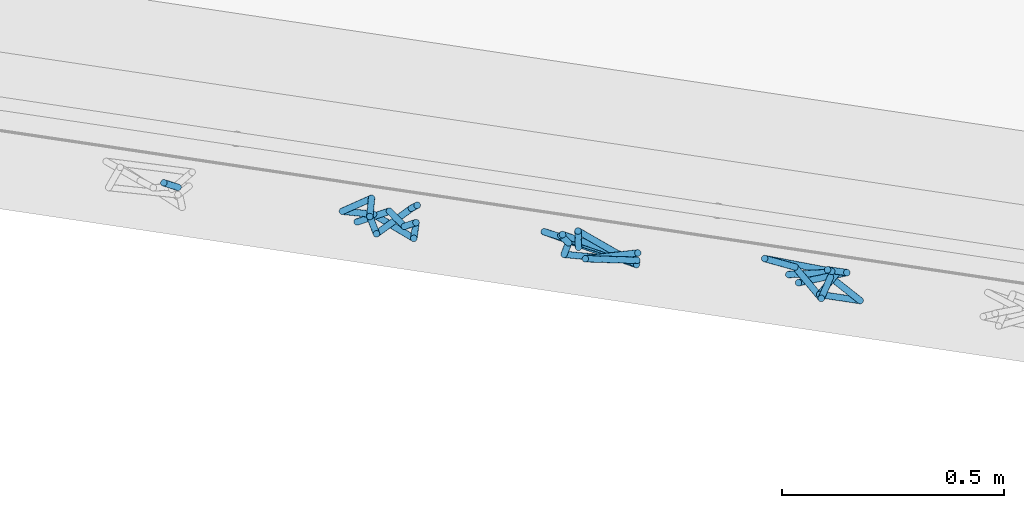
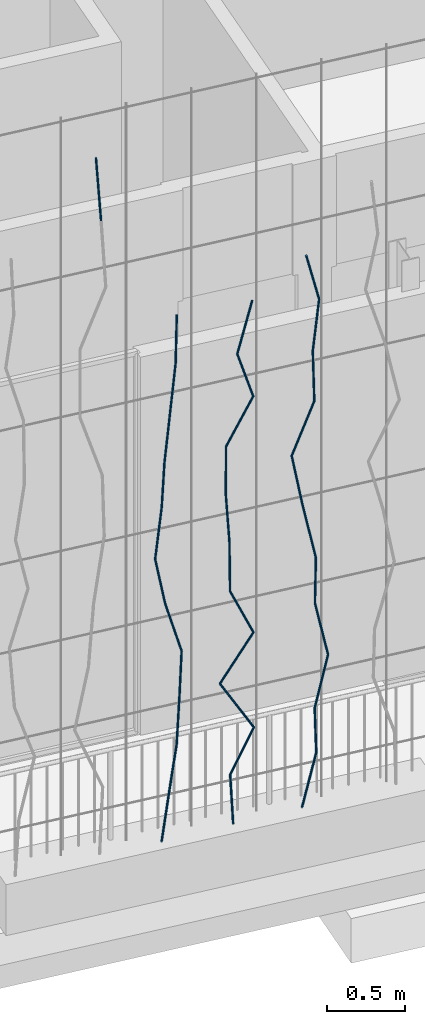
# One storey, part 117 of 142: 34 members, 1 element without a shape of its own.
"""IFC4 building model written with IfcOpenShell, lengths in metres."""

import ifcopenshell
import ifcopenshell.guid

model = None  # the IFC model being written
_history = None  # IfcOwnerHistory: only IFC2X3 demands one
_inside = {}  # id of a spatial element -> (the spatial element, [elements in it])
_under = {}  # id of a project, library or spatial element -> (it, [spatial elements below it])
_declared = {}  # id of a project -> (the project, [libraries it declares])
_typed = {}  # id of a type object -> (the type object, [elements of that type])
_made_of = {}  # id of a material, layer set ... -> (it, [elements and type objects made of it])


def new_model(schema):
    """Start an empty IFC model of exactly this schema.

    Asked for "IFC4X3", IfcOpenShell would pick the latest addendum, in which some entities
    have other attributes; the version numbers below select the first issue.
    IFC2X3 requires an IfcOwnerHistory on every rooted entity: one is made here for all.
    """
    global model, _history
    if schema == "IFC4X3":
        model = ifcopenshell.file(schema_version=(4, 3, 0, 0))
    else:
        model = ifcopenshell.file(schema=schema)
    _inside.clear()
    _under.clear()
    _declared.clear()
    _typed.clear()
    _made_of.clear()
    _history = None
    if model.schema == "IFC2X3":
        org = make("IfcOrganization", Name="unknown")
        user = make(
            "IfcPersonAndOrganization",
            ThePerson=make("IfcPerson", FamilyName="unknown"),
            TheOrganization=org,
        )
        app = make(
            "IfcApplication",
            ApplicationDeveloper=org,
            Version="unknown",
            ApplicationFullName="unknown",
            ApplicationIdentifier="unknown",
        )
        _history = make(
            "IfcOwnerHistory",
            OwningUser=user,
            OwningApplication=app,
            ChangeAction="ADDED",
            CreationDate=0,
        )
    return model


def make(cls, **values):
    """One entity of the class cls with the attributes given. An attribute that is None is left unset."""
    return model.create_entity(
        cls, **{name: value for name, value in values.items() if value is not None}
    )


def rooted(cls, **values):
    """An entity with a GlobalId (a new one), such as an element, a storey or a relation."""
    return make(cls, GlobalId=ifcopenshell.guid.new(), OwnerHistory=_history, **values)


def si_unit(unit_type, name, prefix=None):
    """IfcSIUnit, for example si_unit("LENGTHUNIT", "METRE", prefix="MILLI")."""
    return make("IfcSIUnit", UnitType=unit_type, Prefix=prefix, Name=name)


def assignment(units):
    """IfcUnitAssignment: the units of a project."""
    return None if units is None else make("IfcUnitAssignment", Units=units)


def point(xyz):
    """IfcCartesianPoint."""
    return None if xyz is None else make("IfcCartesianPoint", Coordinates=xyz)


def direction(xyz):
    """IfcDirection."""
    return None if xyz is None else make("IfcDirection", DirectionRatios=xyz)


def frame(location, z_axis=None, x_axis=None):
    """IfcAxis2Placement3D, a coordinate frame: its origin and axes. An axis left out is left unset."""
    return make(
        "IfcAxis2Placement3D",
        Location=point(location),
        Axis=direction(z_axis),
        RefDirection=direction(x_axis),
    )


def origin_with_axes():
    """The frame at (0, 0, 0) with the z axis (0, 0, 1) and the x axis (1, 0, 0) written out."""
    return frame((0.0, 0.0, 0.0), z_axis=(0.0, 0.0, 1.0), x_axis=(1.0, 0.0, 0.0))


def place(relative_to, where):
    """IfcLocalPlacement: puts the frame where relative to a parent placement (None: the world)."""
    return make(
        "IfcLocalPlacement", PlacementRelTo=relative_to, RelativePlacement=where
    )


def context(
    kind, dimensions, precision=None, world=None, true_north=None, identifier=None
):
    """IfcGeometricRepresentationContext, for example the 3D "Model" context."""
    return make(
        "IfcGeometricRepresentationContext",
        ContextIdentifier=identifier,
        ContextType=kind,
        CoordinateSpaceDimension=dimensions,
        Precision=precision,
        WorldCoordinateSystem=world,
        TrueNorth=true_north,
    )


def subcontext(parent, identifier, kind, view, scale=None):
    """IfcGeometricRepresentationSubContext, for example "Body" below "Model"."""
    return make(
        "IfcGeometricRepresentationSubContext",
        ContextIdentifier=identifier,
        ContextType=kind,
        ParentContext=parent,
        TargetScale=scale,
        TargetView=view,
    )


def project(units=None, contexts=None):
    """IfcProject with its units and contexts."""
    return rooted(
        "IfcProject",
        Name="project",
        RepresentationContexts=contexts,
        UnitsInContext=assignment(units),
    )


def spatial(cls, under=None, at=None, **own):
    """A site, building, storey or space (cls), placed at a placement, below another one or the project."""
    s = rooted(cls, ObjectPlacement=at, **own)
    if under is not None:
        _under.setdefault(under.id(), (under, []))[1].append(s)
    return s


def profile(cls, at=None, kind="AREA", **sizes):
    """A parametric profile (cls). Its sizes go by their IFC names, for example OverallWidth=200.0."""
    return make(cls, ProfileType=kind, Position=at, **sizes)


def circle(**sizes):
    """IfcCircleProfileDef."""
    return profile("IfcCircleProfileDef", **sizes)


def extrude(swept, where, along, depth):
    """IfcExtrudedAreaSolid: the profile swept, set in the frame where, extruded along a direction by depth."""
    return make(
        "IfcExtrudedAreaSolid",
        SweptArea=swept,
        Position=where,
        ExtrudedDirection=direction(along),
        Depth=depth,
    )


def shape(context_of_items, identifier, shape_type, items):
    """IfcShapeRepresentation: the items that make up one representation, for example the "Body"."""
    return make(
        "IfcShapeRepresentation",
        ContextOfItems=context_of_items,
        RepresentationIdentifier=identifier,
        RepresentationType=shape_type,
        Items=items,
    )


def material(Name=None, Category=None):
    """IfcMaterial."""
    return make("IfcMaterial", Name=Name, Category=Category)


def material_profile(
    of_material, cross_section, Name=None, Category=None, Priority=None
):
    """IfcMaterialProfile: a cross section and its material."""
    return make(
        "IfcMaterialProfile",
        Name=Name,
        Material=of_material,
        Profile=cross_section,
        Priority=Priority,
        Category=Category,
    )


def profile_set(profiles, Name=None, composite=None):
    """IfcMaterialProfileSet."""
    return make(
        "IfcMaterialProfileSet",
        Name=Name,
        MaterialProfiles=profiles,
        CompositeProfile=composite,
    )


def profile_usage(for_profile_set, cardinal=None, extent=None):
    """IfcMaterialProfileSetUsage: how a profile set lies along its element."""
    return make(
        "IfcMaterialProfileSetUsage",
        ForProfileSet=for_profile_set,
        CardinalPoint=cardinal,
        ReferenceExtent=extent,
    )


def made_of(thing, what):
    """Note that an element or type object is made of a material, layer set ...; save() writes the relation."""
    if what is not None:
        _made_of.setdefault(what.id(), (what, []))[1].append(thing)
    return thing


def type_object(cls, material=None, **own):
    """A type object (cls), such as IfcWallType, which elements share."""
    return made_of(rooted(cls, **own), material)


def element(
    cls,
    number,
    at=None,
    inside=None,
    cuts=None,
    type_object=None,
    material=None,
    context=None,
    identifier="Body",
    shape_type=None,
    held_by="IfcProductDefinitionShape",
    body=None,
    shapes=None,
    **own,
):
    """One element of the class cls, such as IfcWall. Its Tag is "e" and its number.

    at: its placement. inside: the storey or other place that contains it. cuts: it is an
    opening in that element (IfcRelVoidsElement). A single representation is given by context,
    identifier, shape_type and body (its items); several are given by shapes. held_by: the class
    of the entity that holds the representations. save() writes the other relations.
    """
    e = rooted(cls, Tag="e%d" % number, ObjectPlacement=at, **own)
    if body is not None:
        shapes = [shape(context, identifier, shape_type, body)]
    if shapes is not None:
        e.Representation = make(held_by, Representations=shapes)
    if inside is not None:
        _inside.setdefault(inside.id(), (inside, []))[1].append(e)
    if cuts is not None:
        rooted(
            "IfcRelVoidsElement", RelatingBuildingElement=cuts, RelatedOpeningElement=e
        )
    if type_object is not None:
        _typed.setdefault(type_object.id(), (type_object, []))[1].append(e)
    return made_of(e, material)


def aggregate(whole, parts):
    """IfcRelAggregates: a whole, such as a stair, and the parts it consists of."""
    return rooted("IfcRelAggregates", RelatingObject=whole, RelatedObjects=parts)


def save(model, path):
    """Write the relations noted so far, then the file.

    IfcRelAggregates (storeys below a building ...), IfcRelContainedInSpatialStructure (elements
    in a storey), IfcRelDefinesByType, IfcRelAssociatesMaterial and IfcRelDeclares: one each for
    every whole, place, type object, material and project.
    """
    for whole, parts in _under.values():
        aggregate(whole, parts)
    for where, things in _inside.values():
        rooted(
            "IfcRelContainedInSpatialStructure",
            RelatedElements=things,
            RelatingStructure=where,
        )
    for kind, things in _typed.values():
        rooted("IfcRelDefinesByType", RelatedObjects=things, RelatingType=kind)
    for what, things in _made_of.values():
        rooted("IfcRelAssociatesMaterial", RelatedObjects=things, RelatingMaterial=what)
    for by, libraries in _declared.values():
        rooted("IfcRelDeclares", RelatingContext=by, RelatedDefinitions=libraries)
    model.write(path)


model = new_model("IFC4")

# Units and contexts
model_context = context("Model", 3, precision=1e-05, world=origin_with_axes(), true_north=direction((0.0, 1.0)))
body_context = subcontext(model_context, "Body", "Model", "MODEL_VIEW")
ifc_project = project(units=[si_unit("LENGTHUNIT", "METRE"), si_unit("AREAUNIT", "SQUARE_METRE"), si_unit("VOLUMEUNIT", "CUBIC_METRE")], contexts=[model_context])

# Site, building, storey
site_placement = place(None, origin_with_axes())
site = spatial("IfcSite", under=ifc_project, at=site_placement, Name="Lares · Rua das Mercês · artigo 4771")
building_placement = place(site_placement, frame((15.0, 9.7, 14.65), z_axis=(0.0, 0.0, 1.0), x_axis=(0.989015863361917, -0.147809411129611, 0.0)))
building = spatial("IfcBuilding", under=site, at=building_placement, Name="Casa Sobreposta")
storey_placement = place(building_placement, origin_with_axes())
storey = spatial("IfcBuildingStorey", under=building, at=storey_placement, Name="00 · Habitação e estacionamento", Elevation=14.65)

# Assembly, members
assembly_placement = place(storey_placement, origin_with_axes())
assembly = element("IfcElementAssembly", 1, at=assembly_placement, inside=storey, Name="Fachada sul e pátio · estrutura e trepadeiras", ObjectType="LIVING_SHADE_TRELLIS", PredefinedType="USERDEFINED")
ifc_material = material(Name="Ramos de trepadeiras", Category="wood")
ifc_material_profile = material_profile(ifc_material, circle(Radius=0.0075))
ifc_profile_set = profile_set([ifc_material_profile], Name="D0.015")
ifc_profile_usage_1 = profile_usage(ifc_profile_set)
member_type = type_object("IfcMemberType", Name="D0.015 / vine_wood", PredefinedType="NOTDEFINED", material=ifc_profile_set)
member_1_placement = place(assembly_placement, frame((9.199402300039, -1.67760846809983, 5.32537169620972), z_axis=(-0.0662661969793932, 0.0107995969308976, 0.997743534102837), x_axis=(0.160850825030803, 0.986978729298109, 0.0)))
member_1 = element("IfcMember", 2, at=member_1_placement, type_object=member_type, material=ifc_profile_usage_1, Name="Trepadeiras · ramo", context=body_context, shape_type="SweptSolid", body=[
    extrude(circle(Radius=0.0075), origin_with_axes(), (0.0, 0.0, 1.0), 0.49866238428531),
])
ifc_profile_usage_2 = profile_usage(ifc_profile_set)
member_2_placement = place(assembly_placement, frame((9.61025777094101, -1.6950336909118, 0.35), z_axis=(0.181835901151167, 0.0919976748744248, 0.97901590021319), x_axis=(0.451447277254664, -0.892297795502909, 0.0)))
member_2 = element("IfcMember", 3, at=member_2_placement, type_object=member_type, material=ifc_profile_usage_2, Name="Trepadeiras · ramo", context=body_context, shape_type="SweptSolid", body=[
    extrude(circle(Radius=0.0075), origin_with_axes(), (0.0, 0.0, 1.0), 0.377933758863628),
])
ifc_profile_usage_3 = profile_usage(ifc_profile_set)
member_3_placement = place(assembly_placement, frame((9.67897969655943, -1.66026466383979, 0.72000315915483), z_axis=(0.103219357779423, -0.0774565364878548, 0.991638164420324), x_axis=(-0.600208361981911, -0.799843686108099, -1.33299173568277e-17)))
member_3 = element("IfcMember", 4, at=member_3_placement, type_object=member_type, material=ifc_profile_usage_3, Name="Trepadeiras · ramo", context=body_context, shape_type="SweptSolid", body=[
    extrude(circle(Radius=0.0075), origin_with_axes(), (0.0, 0.0, 1.0), 0.37312315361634),
])
ifc_profile_usage_4 = profile_usage(ifc_profile_set)
member_4_placement = place(assembly_placement, frame((9.71749322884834, -1.68916549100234, 1.09000631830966), z_axis=(0.0661164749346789, 0.0332706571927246, 0.997257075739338), x_axis=(0.449508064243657, -0.893276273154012, 0.0)))
member_4 = element("IfcMember", 5, at=member_4_placement, type_object=member_type, material=ifc_profile_usage_4, Name="Trepadeiras · ramo", context=body_context, shape_type="SweptSolid", body=[
    extrude(circle(Radius=0.0075), origin_with_axes(), (0.0, 0.0, 1.0), 0.371020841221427),
])
ifc_profile_usage_5 = profile_usage(ifc_profile_set)
member_5_placement = place(assembly_placement, frame((9.7420238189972, -1.67682138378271, 1.46000947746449), z_axis=(0.00123806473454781, -0.0968645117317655, 0.995296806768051), x_axis=(-0.999918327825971, -0.0127803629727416, 0.0)))
member_5 = element("IfcMember", 6, at=member_5_placement, type_object=member_type, material=ifc_profile_usage_5, Name="Trepadeiras · ramo", context=body_context, shape_type="SweptSolid", body=[
    extrude(circle(Radius=0.0075), origin_with_axes(), (0.0, 0.0, 1.0), 0.371751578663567),
])
ifc_profile_usage_6 = profile_usage(ifc_profile_set)
member_6_placement = place(assembly_placement, frame((9.74248407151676, -1.71283091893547, 1.83001263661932), z_axis=(-0.254351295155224, 0.104439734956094, 0.961456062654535), x_axis=(0.379838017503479, 0.925053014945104, 0.0)))
member_6 = element("IfcMember", 7, at=member_6_placement, type_object=member_type, material=ifc_profile_usage_6, Name="Trepadeiras · ramo", context=body_context, shape_type="SweptSolid", body=[
    extrude(circle(Radius=0.0075), origin_with_axes(), (0.0, 0.0, 1.0), 0.384836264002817),
])
ifc_profile_usage_7 = profile_usage(ifc_profile_set)
member_7_placement = place(assembly_placement, frame((9.64460046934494, -1.67263872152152, 2.20001579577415), z_axis=(-0.187379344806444, -0.00905636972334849, 0.982245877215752), x_axis=(-0.0482753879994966, 0.998834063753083, 0.0)))
member_7 = element("IfcMember", 8, at=member_7_placement, type_object=member_type, material=ifc_profile_usage_7, Name="Trepadeiras · ramo", context=body_context, shape_type="SweptSolid", body=[
    extrude(circle(Radius=0.0075), origin_with_axes(), (0.0, 0.0, 1.0), 0.376690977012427),
])
ifc_profile_usage_8 = profile_usage(ifc_profile_set)
member_8_placement = place(assembly_placement, frame((9.57401636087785, -1.67605017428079, 2.57001895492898), z_axis=(0.161141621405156, 0.102376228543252, 0.981607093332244), x_axis=(0.536247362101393, -0.844060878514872, 0.0)))
member_8 = element("IfcMember", 9, at=member_8_placement, type_object=member_type, material=ifc_profile_usage_8, Name="Trepadeiras · ramo", context=body_context, shape_type="SweptSolid", body=[
    extrude(circle(Radius=0.0075), origin_with_axes(), (0.0, 0.0, 1.0), 0.376936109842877),
])
ifc_profile_usage_9 = profile_usage(ifc_profile_set)
member_9_placement = place(assembly_placement, frame((9.63475645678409, -1.63746087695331, 2.94002211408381), z_axis=(0.00596860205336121, -0.110693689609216, 0.993836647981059), x_axis=(-0.998549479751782, -0.0538417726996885, 0.0)))
member_9 = element("IfcMember", 10, at=member_9_placement, type_object=member_type, material=ifc_profile_usage_9, Name="Trepadeiras · ramo", context=body_context, shape_type="SweptSolid", body=[
    extrude(circle(Radius=0.0075), origin_with_axes(), (0.0, 0.0, 1.0), 0.37229776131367),
])
ifc_profile_usage_10 = profile_usage(ifc_profile_set)
member_10_placement = place(assembly_placement, frame((9.63697855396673, -1.67867188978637, 3.31002527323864), z_axis=(0.0552654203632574, -0.097749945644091, 0.993675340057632), x_axis=(-0.870503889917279, -0.492161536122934, 0.0)))
member_10 = element("IfcMember", 11, at=member_10_placement, type_object=member_type, material=ifc_profile_usage_10, Name="Trepadeiras · ramo", context=body_context, shape_type="SweptSolid", body=[
    extrude(circle(Radius=0.0075), origin_with_axes(), (0.0, 0.0, 1.0), 0.372358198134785),
])
ifc_profile_usage_11 = profile_usage(ifc_profile_set)
member_11_placement = place(assembly_placement, frame((9.65755708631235, -1.71506988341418, 3.68002843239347), z_axis=(0.181682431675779, 0.179110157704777, 0.966907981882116), x_axis=(0.702047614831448, -0.712130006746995, 0.0)))
member_11 = element("IfcMember", 12, at=member_11_placement, type_object=member_type, material=ifc_profile_usage_11, Name="Trepadeiras · ramo", context=body_context, shape_type="SweptSolid", body=[
    extrude(circle(Radius=0.0075), origin_with_axes(), (0.0, 0.0, 1.0), 0.382666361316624),
])
ifc_profile_usage_12 = profile_usage(ifc_profile_set)
member_12_placement = place(assembly_placement, frame((9.72708084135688, -1.64653045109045, 4.0500315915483), z_axis=(0.0314138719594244, 0.0234221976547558, 0.999231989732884), x_axis=(0.999506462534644, -0.000736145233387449, -0.0314052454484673)))
member_12 = element("IfcMember", 13, at=member_12_placement, type_object=member_type, material=ifc_profile_usage_12, Name="Trepadeiras · ramo", context=body_context, shape_type="SweptSolid", body=[
    extrude(circle(Radius=0.0075), origin_with_axes(), (0.0, 0.0, 1.0), 0.370287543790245),
])
ifc_profile_usage_13 = profile_usage(ifc_profile_set)
member_13_placement = place(assembly_placement, frame((10.1127758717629, -1.67777790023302, 0.35), z_axis=(-0.0178101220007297, 0.0972106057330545, 0.995104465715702), x_axis=(0.983627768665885, 0.180212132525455, 0.0)))
member_13 = element("IfcMember", 14, at=member_13_placement, type_object=member_type, material=ifc_profile_usage_13, Name="Trepadeiras · ramo", context=body_context, shape_type="SweptSolid", body=[
    extrude(circle(Radius=0.0075), origin_with_axes(), (0.0, 0.0, 1.0), 0.372215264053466),
])
ifc_profile_usage_14 = profile_usage(ifc_profile_set)
member_14_placement = place(assembly_placement, frame((10.1061466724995, -1.64159462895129, 0.720393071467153), z_axis=(0.354526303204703, -0.138601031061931, 0.924716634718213), x_axis=(-0.36411078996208, -0.931355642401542, 0.0)))
member_14 = element("IfcMember", 15, at=member_14_placement, type_object=member_type, material=ifc_profile_usage_14, Name="Trepadeiras · ramo", context=body_context, shape_type="SweptSolid", body=[
    extrude(circle(Radius=0.0075), origin_with_axes(), (0.0, 0.0, 1.0), 0.400547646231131),
])
ifc_profile_usage_15 = profile_usage(ifc_profile_set)
member_15_placement = place(assembly_placement, frame((10.2481513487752, -1.69711094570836, 1.09078614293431), z_axis=(-0.504523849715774, 0.0987501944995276, 0.857731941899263), x_axis=(0.192084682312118, 0.98137835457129, 0.0)))
member_15 = element("IfcMember", 16, at=member_15_placement, type_object=member_type, material=ifc_profile_usage_15, Name="Trepadeiras · ramo", context=body_context, shape_type="SweptSolid", body=[
    extrude(circle(Radius=0.0075), origin_with_axes(), (0.0, 0.0, 1.0), 0.431828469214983),
])
ifc_profile_usage_16 = profile_usage(ifc_profile_set)
member_16_placement = place(assembly_placement, frame((10.03028358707, -1.65446780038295, 1.46117921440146), z_axis=(0.505500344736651, -0.0809606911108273, 0.859019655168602), x_axis=(-0.158144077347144, -0.987416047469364, 0.0)))
member_16 = element("IfcMember", 17, at=member_16_placement, type_object=member_type, material=ifc_profile_usage_16, Name="Trepadeiras · ramo", context=body_context, shape_type="SweptSolid", body=[
    extrude(circle(Radius=0.0075), origin_with_axes(), (0.0, 0.0, 1.0), 0.431181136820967),
])
ifc_profile_usage_17 = profile_usage(ifc_profile_set)
member_17_placement = place(assembly_placement, frame((10.2482458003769, -1.68937652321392, 1.83157228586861), z_axis=(-0.407442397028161, -0.0220574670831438, 0.91296449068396), x_axis=(-0.0540572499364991, 0.998537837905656, 0.0)))
member_17 = element("IfcMember", 18, at=member_17_placement, type_object=member_type, material=ifc_profile_usage_17, Name="Trepadeiras · ramo", context=body_context, shape_type="SweptSolid", body=[
    extrude(circle(Radius=0.0075), origin_with_axes(), (0.0, 0.0, 1.0), 0.405703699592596),
])
ifc_profile_usage_18 = profile_usage(ifc_profile_set)
member_18_placement = place(assembly_placement, frame((10.0829449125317, -1.6983253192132, 2.20196535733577), z_axis=(0.0168158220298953, 0.0729273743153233, 0.997195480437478), x_axis=(0.974430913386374, -0.224687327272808, 0.0)))
member_18 = element("IfcMember", 19, at=member_18_placement, type_object=member_type, material=ifc_profile_usage_18, Name="Trepadeiras · ramo", context=body_context, shape_type="SweptSolid", body=[
    extrude(circle(Radius=0.0075), origin_with_axes(), (0.0, 0.0, 1.0), 0.371434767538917),
])
ifc_profile_usage_19 = profile_usage(ifc_profile_set)
member_19_placement = place(assembly_placement, frame((10.0891908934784, -1.67123755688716, 2.57235842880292), z_axis=(-0.0535324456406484, 0.0374666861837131, 0.997862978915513), x_axis=(0.573400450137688, 0.819275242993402, 0.0)))
member_19 = element("IfcMember", 20, at=member_19_placement, type_object=member_type, material=ifc_profile_usage_19, Name="Trepadeiras · ramo", context=body_context, shape_type="SweptSolid", body=[
    extrude(circle(Radius=0.0075), origin_with_axes(), (0.0, 0.0, 1.0), 0.371186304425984),
])
ifc_profile_usage_20 = profile_usage(ifc_profile_set)
member_20_placement = place(assembly_placement, frame((10.0693203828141, -1.65733043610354, 2.94275150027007), z_axis=(0.00942132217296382, 0.00713172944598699, 0.999930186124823), x_axis=(0.999955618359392, -6.71933029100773e-05, -0.00942108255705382)))
member_20 = element("IfcMember", 21, at=member_20_placement, type_object=member_type, material=ifc_profile_usage_20, Name="Trepadeiras · ramo", context=body_context, shape_type="SweptSolid", body=[
    extrude(circle(Radius=0.0075), origin_with_axes(), (0.0, 0.0, 1.0), 0.370418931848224),
])
ifc_profile_usage_21 = profile_usage(ifc_profile_set)
member_21_placement = place(assembly_placement, frame((10.07281021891, -1.65468870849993, 3.31314457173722), z_axis=(0.424990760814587, -0.0796342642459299, 0.90168799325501), x_axis=(-0.184173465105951, -0.982893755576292, 0.0)))
member_21 = element("IfcMember", 22, at=member_21_placement, type_object=member_type, material=ifc_profile_usage_21, Name="Trepadeiras · ramo", context=body_context, shape_type="SweptSolid", body=[
    extrude(circle(Radius=0.0075), origin_with_axes(), (0.0, 0.0, 1.0), 0.410777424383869),
])
ifc_profile_usage_22 = profile_usage(ifc_profile_set)
member_22_placement = place(assembly_placement, frame((10.2473868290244, -1.68740066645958, 3.68353764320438), z_axis=(-0.297817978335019, -0.0352407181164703, 0.9539719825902), x_axis=(-0.117509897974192, 0.993071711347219, 0.0)))
member_22 = element("IfcMember", 23, at=member_22_placement, type_object=member_type, material=ifc_profile_usage_22, Name="Trepadeiras · ramo", context=body_context, shape_type="SweptSolid", body=[
    extrude(circle(Radius=0.0075), origin_with_axes(), (0.0, 0.0, 1.0), 0.388264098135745),
])
ifc_profile_usage_23 = profile_usage(ifc_profile_set)
member_23_placement = place(assembly_placement, frame((10.1317548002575, -1.70108337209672, 4.05393071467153), z_axis=(0.296227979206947, 0.07819125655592, 0.951911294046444), x_axis=(0.255215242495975, -0.96688426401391, 0.0)))
member_23 = element("IfcMember", 24, at=member_23_placement, type_object=member_type, material=ifc_profile_usage_23, Name="Trepadeiras · ramo", context=body_context, shape_type="SweptSolid", body=[
    extrude(circle(Radius=0.0075), origin_with_axes(), (0.0, 0.0, 1.0), 0.389104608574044),
])
ifc_profile_usage_24 = profile_usage(ifc_profile_set)
member_24_placement = place(assembly_placement, frame((10.590649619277, -1.66855686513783, 0.35), z_axis=(0.264650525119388, 0.0531521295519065, 0.962878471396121), x_axis=(0.196906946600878, -0.980422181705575, 0.0)))
member_24 = element("IfcMember", 25, at=member_24_placement, type_object=member_type, material=ifc_profile_usage_24, Name="Trepadeiras · ramo", context=body_context, shape_type="SweptSolid", body=[
    extrude(circle(Radius=0.0075), origin_with_axes(), (0.0, 0.0, 1.0), 0.409890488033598),
])
ifc_profile_usage_25 = profile_usage(ifc_profile_set)
member_25_placement = place(assembly_placement, frame((10.6991273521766, -1.64677031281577, 0.7446747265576), z_axis=(-0.0820644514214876, -0.139915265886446, 0.986756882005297), x_axis=(-0.862576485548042, 0.505926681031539, 0.0)))
member_25 = element("IfcMember", 26, at=member_25_placement, type_object=member_type, material=ifc_profile_usage_25, Name="Trepadeiras · ramo", context=body_context, shape_type="SweptSolid", body=[
    extrude(circle(Radius=0.0075), origin_with_axes(), (0.0, 0.0, 1.0), 0.399971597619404),
])
ifc_profile_usage_26 = profile_usage(ifc_profile_set)
member_26_placement = place(assembly_placement, frame((10.6663039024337, -1.70273244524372, 1.1393494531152), z_axis=(0.228028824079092, 0.000120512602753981, 0.973654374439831), x_axis=(0.000528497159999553, -0.999999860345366, 0.0)))
member_26 = element("IfcMember", 27, at=member_26_placement, type_object=member_type, material=ifc_profile_usage_26, Name="Trepadeiras · ramo", context=body_context, shape_type="SweptSolid", body=[
    extrude(circle(Radius=0.0075), origin_with_axes(), (0.0, 0.0, 1.0), 0.40535403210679),
])
ifc_profile_usage_27 = profile_usage(ifc_profile_set)
member_27_placement = place(assembly_placement, frame((10.7587363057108, -1.70268359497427, 1.5340241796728), z_axis=(-0.183407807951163, 0.104798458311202, 0.977434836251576), x_axis=(0.496117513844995, 0.868255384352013, 0.0)))
member_27 = element("IfcMember", 28, at=member_27_placement, type_object=member_type, material=ifc_profile_usage_27, Name="Trepadeiras · ramo", context=body_context, shape_type="SweptSolid", body=[
    extrude(circle(Radius=0.0075), origin_with_axes(), (0.0, 0.0, 1.0), 0.403786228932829),
])
ifc_profile_usage_28 = profile_usage(ifc_profile_set)
member_28_placement = place(assembly_placement, frame((10.6846787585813, -1.66036742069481, 1.9286989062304), z_axis=(-0.0335710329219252, -0.126691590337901, 0.991373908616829), x_axis=(-0.966639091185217, 0.256142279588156, 0.0)))
member_28 = element("IfcMember", 29, at=member_28_placement, type_object=member_type, material=ifc_profile_usage_28, Name="Trepadeiras · ramo", context=body_context, shape_type="SweptSolid", body=[
    extrude(circle(Radius=0.0075), origin_with_axes(), (0.0, 0.0, 1.0), 0.398108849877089),
])
ifc_profile_usage_29 = profile_usage(ifc_profile_set)
member_29_placement = place(assembly_placement, frame((10.6713138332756, -1.71080446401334, 2.323373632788), z_axis=(-0.170517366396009, 0.151109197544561, 0.973699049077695), x_axis=(0.663230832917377, 0.748414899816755, 0.0)))
member_29 = element("IfcMember", 30, at=member_29_placement, type_object=member_type, material=ifc_profile_usage_29, Name="Trepadeiras · ramo", context=body_context, shape_type="SweptSolid", body=[
    extrude(circle(Radius=0.0075), origin_with_axes(), (0.0, 0.0, 1.0), 0.405335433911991),
])
ifc_profile_usage_30 = profile_usage(ifc_profile_set)
member_30_placement = place(assembly_placement, frame((10.6021971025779, -1.64955455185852, 2.7180483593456), z_axis=(-0.175755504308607, 0.0216898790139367, 0.984194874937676), x_axis=(0.122480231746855, 0.992470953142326, 0.0)))
member_30 = element("IfcMember", 31, at=member_30_placement, type_object=member_type, material=ifc_profile_usage_30, Name="Trepadeiras · ramo", context=body_context, shape_type="SweptSolid", body=[
    extrude(circle(Radius=0.0075), origin_with_axes(), (0.0, 0.0, 1.0), 0.401012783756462),
])
ifc_profile_usage_31 = profile_usage(ifc_profile_set)
member_31_placement = place(assembly_placement, frame((10.5317168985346, -1.6408566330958, 3.1127230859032), z_axis=(0.363053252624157, -0.0146242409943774, 0.931653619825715), x_axis=(-0.0402486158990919, -0.99918969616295, 0.0)))
member_31 = element("IfcMember", 32, at=member_31_placement, type_object=member_type, material=ifc_profile_usage_31, Name="Trepadeiras · ramo", context=body_context, shape_type="SweptSolid", body=[
    extrude(circle(Radius=0.0075), origin_with_axes(), (0.0, 0.0, 1.0), 0.423628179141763),
])
ifc_profile_usage_32 = profile_usage(ifc_profile_set)
member_32_placement = place(assembly_placement, frame((10.6855164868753, -1.64705187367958, 3.5073978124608), z_axis=(-0.0246994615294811, 0.00534946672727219, 0.999680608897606), x_axis=(0.999694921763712, 0.00013216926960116, 0.0246991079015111)))
member_32 = element("IfcMember", 33, at=member_32_placement, type_object=member_type, material=ifc_profile_usage_32, Name="Trepadeiras · ramo", context=body_context, shape_type="SweptSolid", body=[
    extrude(circle(Radius=0.0075), origin_with_axes(), (0.0, 0.0, 1.0), 0.394800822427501),
])
ifc_profile_usage_33 = profile_usage(ifc_profile_set)
member_33_placement = place(assembly_placement, frame((10.6757651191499, -1.6449398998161, 3.9020725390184), z_axis=(0.110635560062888, 0.000545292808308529, 0.993860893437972), x_axis=(0.00492867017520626, -0.99998785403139, 0.0)))
member_33 = element("IfcMember", 34, at=member_33_placement, type_object=member_type, material=ifc_profile_usage_33, Name="Trepadeiras · ramo", context=body_context, shape_type="SweptSolid", body=[
    extrude(circle(Radius=0.0075), origin_with_axes(), (0.0, 0.0, 1.0), 0.397112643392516),
])
ifc_profile_usage_34 = profile_usage(ifc_profile_set)
member_34_placement = place(assembly_placement, frame((10.7196998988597, -1.64472335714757, 4.296747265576), z_axis=(-0.254491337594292, -0.0944672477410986, 0.962450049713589), x_axis=(-0.347998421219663, 0.937495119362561, 0.0)))
member_34 = element("IfcMember", 35, at=member_34_placement, type_object=member_type, material=ifc_profile_usage_34, Name="Trepadeiras · ramo", context=body_context, shape_type="SweptSolid", body=[
    extrude(circle(Radius=0.0075), origin_with_axes(), (0.0, 0.0, 1.0), 0.410072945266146),
])
aggregate(assembly, [member_1, member_2, member_3, member_4, member_5, member_6, member_7, member_8, member_9, member_10, member_11, member_12, member_13, member_14, member_15, member_16, member_17, member_18, member_19, member_20, member_21, member_22, member_23, member_24, member_25, member_26, member_27, member_28, member_29, member_30, member_31, member_32, member_33, member_34])

save(model, "model.ifc")
